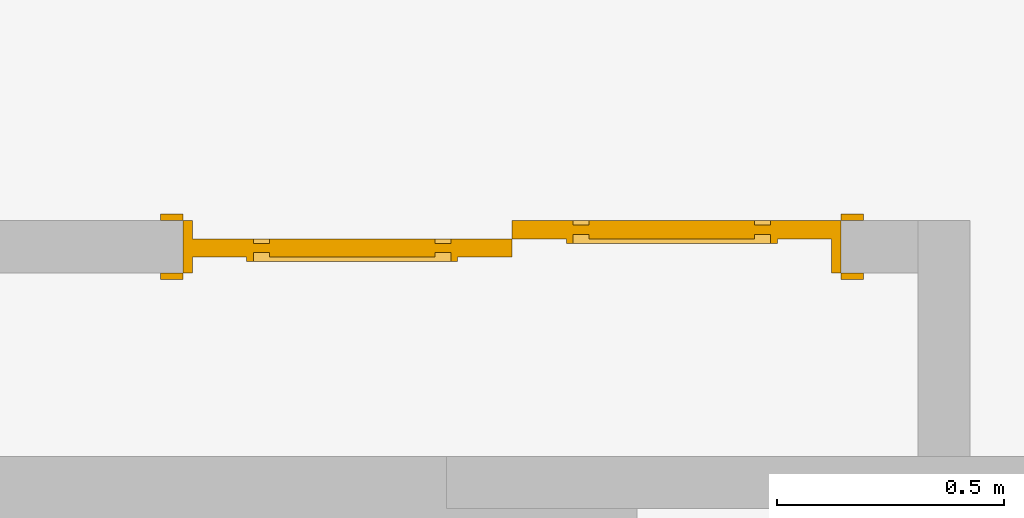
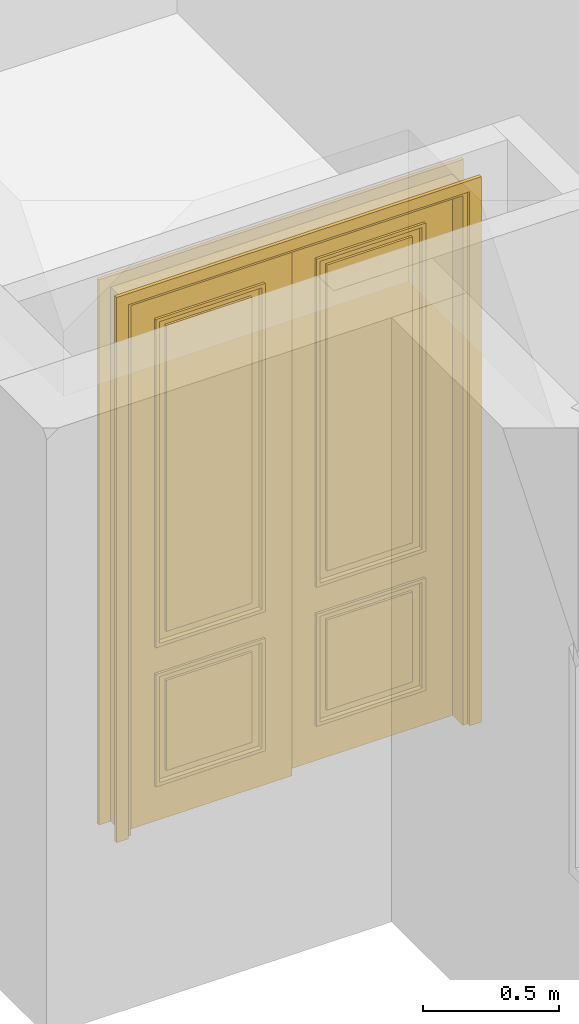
# One storey, part 12 of 24: 1 door.
"""IFC2X3 building model written with IfcOpenShell, lengths in inches."""

from ifc_helpers import new_model, entity, si_unit, converted_unit, derived_unit, money_unit, direction, frame, origin_with_axes, place, context, subcontext, project, spatial, faceted_brep, type_object, element, save


model = new_model("IFC2X3")

# Units and contexts
model_context = context("Model", 3, precision=0.000393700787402, world=origin_with_axes(), true_north=direction((0.0, 1.0)))
body_context = subcontext(model_context, "Body", "Model", "MODEL_VIEW")
ifc_project = project(units=[converted_unit("LENGTHUNIT", "INCH", entity("IfcPositiveLengthMeasure", 0.0254), si_unit("LENGTHUNIT", "METRE"), dimensions=[1, 0, 0, 0, 0, 0, 0]), converted_unit("AREAUNIT", "SQUARE_FOOT", entity("IfcPositiveLengthMeasure", 0.09290304), si_unit("AREAUNIT", "SQUARE_METRE"), dimensions=[2, 0, 0, 0, 0, 0, 0]), si_unit("PLANEANGLEUNIT", "RADIAN"), si_unit("SOLIDANGLEUNIT", "STERADIAN"), money_unit("USD"), converted_unit("TIMEUNIT", "Year", entity("IfcTimeMeasure", 31556926.0), si_unit("TIMEUNIT", "SECOND"), dimensions=[0, 0, 1, 0, 0, 0, 0]), si_unit("MASSUNIT", "GRAM", prefix="KILO"), si_unit("THERMODYNAMICTEMPERATUREUNIT", "DEGREE_CELSIUS"), si_unit("LUMINOUSINTENSITYUNIT", "LUMEN"), si_unit("ENERGYUNIT", "JOULE", prefix="MEGA"), derived_unit("THERMALCONDUCTANCEUNIT", [(si_unit("POWERUNIT", "WATT"), 1), (si_unit("LENGTHUNIT", "METRE"), -1), (si_unit("THERMODYNAMICTEMPERATUREUNIT", "KELVIN"), -1)]), derived_unit("SPECIFICHEATCAPACITYUNIT", [(si_unit("ENERGYUNIT", "JOULE"), 1), (si_unit("MASSUNIT", "GRAM", prefix="KILO"), -1), (si_unit("THERMODYNAMICTEMPERATUREUNIT", "KELVIN"), -1)]), derived_unit("MASSDENSITYUNIT", [(si_unit("MASSUNIT", "GRAM", prefix="KILO"), 1), (si_unit("VOLUMEUNIT", "CUBIC_METRE"), -1)])], contexts=[model_context])

# Site, building, storey
site_placement = place(None, origin_with_axes())
site = spatial("IfcSite", under=ifc_project, at=site_placement, Name="Site", CompositionType="ELEMENT")
building_placement = place(site_placement, origin_with_axes())
building = spatial("IfcBuilding", under=site, at=building_placement, Name="Building", CompositionType="ELEMENT")
storey_placement = place(building_placement, origin_with_axes())
storey = spatial("IfcBuildingStorey", under=building, at=storey_placement, Name="First Floor", CompositionType="ELEMENT", Elevation=0.0)

# Door
door_style = type_object("IfcDoorStyle", Name="Sliding Door 25", ConstructionType="NOTDEFINED", OperationType="USERDEFINED", ParameterTakesPrecedence=False, Sizeable=False)
door_placement = place(storey_placement, frame((251.056966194, 420.396795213, 0.0), z_axis=(0.0, 0.0, 1.0), x_axis=(1.0, 0.0, 0.0)))
element("IfcDoor", 1, at=door_placement, inside=storey, type_object=door_style, Name="D-29", OverallHeight=94.4882, OverallWidth=57.0866, context=body_context, shape_type="Brep", body=[
    faceted_brep([(-1.96850393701, -5.11811023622, 0.0), (-1.96850393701, -4.52755905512, 0.0), (0.0, -4.52755905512, 0.0), (0.0, -5.11811023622, 0.0), (-1.96850393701, -5.11811023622, 96.4566929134), (-1.96850393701, -4.52755905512, 96.4566929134), (0.0, -4.52755905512, 94.4881889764), (0.0, -5.11811023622, 94.4881889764)], [[[0, 1, 2, 3]], [[4, 5, 1, 0]], [[1, 5, 6, 2]], [[3, 2, 6, 7]], [[0, 3, 7, 4]], [[7, 6, 5, 4]]]),
    faceted_brep([(59.0551181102, -5.11811023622, 96.4566929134), (59.0551181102, -4.52755905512, 96.4566929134), (57.0866141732, -4.52755905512, 94.4881889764), (57.0866141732, -5.11811023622, 94.4881889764), (59.0551181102, -5.11811023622, 0.0), (59.0551181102, -4.52755905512, 0.0), (57.0866141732, -4.52755905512, 0.0), (57.0866141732, -5.11811023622, 0.0)], [[[0, 1, 2, 3]], [[4, 5, 1, 0]], [[1, 5, 6, 2]], [[3, 2, 6, 7]], [[0, 3, 7, 4]], [[7, 6, 5, 4]]]),
    faceted_brep([(-1.96850393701, -5.11811023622, 96.4566929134), (-1.96850393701, -4.52755905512, 96.4566929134), (0.0, -4.52755905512, 94.4881889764), (0.0, -5.11811023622, 94.4881889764), (59.0551181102, -5.11811023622, 96.4566929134), (59.0551181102, -4.52755905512, 96.4566929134), (57.0866141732, -4.52755905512, 94.4881889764), (57.0866141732, -5.11811023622, 94.4881889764)], [[[0, 1, 2, 3]], [[4, 5, 1, 0]], [[1, 5, 6, 2]], [[3, 2, 6, 7]], [[0, 3, 7, 4]], [[7, 6, 5, 4]]]),
    faceted_brep([(-1.96850393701, 0.590551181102, 0.0), (0.0, 0.590551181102, 0.0), (0.0, 0.0, 0.0), (-1.96850393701, 0.0, 0.0), (-1.96850393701, 0.590551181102, 96.4566929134), (0.0, 0.590551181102, 94.4881889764), (0.0, 0.0, 94.4881889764), (-1.96850393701, 0.0, 96.4566929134)], [[[0, 1, 2, 3]], [[0, 4, 5, 1]], [[1, 5, 6, 2]], [[3, 2, 6, 7]], [[4, 0, 3, 7]], [[5, 4, 7, 6]]]),
    faceted_brep([(59.0551181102, 0.590551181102, 96.4566929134), (57.0866141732, 0.590551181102, 94.4881889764), (57.0866141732, 0.0, 94.4881889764), (59.0551181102, 0.0, 96.4566929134), (59.0551181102, 0.590551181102, 0.0), (57.0866141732, 0.590551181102, 0.0), (57.0866141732, 0.0, 0.0), (59.0551181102, 0.0, 0.0)], [[[0, 1, 2, 3]], [[0, 4, 5, 1]], [[1, 5, 6, 2]], [[3, 2, 6, 7]], [[4, 0, 3, 7]], [[5, 4, 7, 6]]]),
    faceted_brep([(-1.96850393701, 0.590551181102, 96.4566929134), (0.0, 0.590551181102, 94.4881889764), (0.0, 0.0, 94.4881889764), (-1.96850393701, 0.0, 96.4566929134), (59.0551181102, 0.590551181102, 96.4566929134), (57.0866141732, 0.590551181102, 94.4881889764), (57.0866141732, 0.0, 94.4881889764), (59.0551181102, 0.0, 96.4566929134)], [[[0, 1, 2, 3]], [[0, 4, 5, 1]], [[1, 5, 6, 2]], [[3, 2, 6, 7]], [[4, 0, 3, 7]], [[5, 4, 7, 6]]]),
    faceted_brep([(0.0, 0.0, 0.0), (0.787401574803, 0.0, 0.0), (0.787401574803, -4.52755905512, 0.0), (0.0, -4.52755905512, 0.0), (0.0, 0.0, 93.7007874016), (0.787401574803, 0.0, 93.7007874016), (0.787401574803, -4.52755905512, 93.7007874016), (0.0, -4.52755905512, 93.7007874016)], [[[0, 1, 2, 3]], [[0, 4, 5, 1]], [[1, 5, 6, 2]], [[3, 2, 6, 7]], [[4, 0, 3, 7]], [[5, 4, 7, 6]]]),
    faceted_brep([(57.0866141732, 0.0, 0.0), (57.0866141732, 0.0, 93.7007874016), (57.0866141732, -4.52755905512, 93.7007874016), (57.0866141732, -4.52755905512, 0.0), (56.2992125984, 0.0, 0.0), (56.2992125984, 0.0, 93.7007874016), (56.2992125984, -4.52755905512, 93.7007874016), (56.2992125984, -4.52755905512, 0.0)], [[[0, 1, 2, 3]], [[0, 4, 5, 1]], [[1, 5, 6, 2]], [[3, 2, 6, 7]], [[4, 0, 3, 7]], [[5, 4, 7, 6]]]),
    faceted_brep([(0.0, 0.0, 94.4881889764), (0.0, 0.0, 93.7007874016), (0.0, -4.52755905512, 93.7007874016), (0.0, -4.52755905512, 94.4881889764), (57.0866141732, 0.0, 94.4881889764), (57.0866141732, 0.0, 93.7007874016), (56.2992125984, 0.0, 93.7007874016), (0.787401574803, 0.0, 93.7007874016), (0.787401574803, -4.52755905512, 93.7007874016), (56.2992125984, -4.52755905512, 93.7007874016), (57.0866141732, -4.52755905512, 93.7007874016), (57.0866141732, -4.52755905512, 94.4881889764)], [[[0, 1, 2, 3]], [[0, 4, 5, 6, 7, 1]], [[1, 7, 8, 2]], [[3, 2, 8, 9, 10, 11]], [[4, 0, 3, 11]], [[5, 4, 11, 10]], [[6, 5, 10, 9]], [[7, 6, 9, 8]]]),
    faceted_brep([(56.2992125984, 0.0, 0.0), (56.2992125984, -1.57480314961, 0.0), (28.5433070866, -1.57480314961, 0.0), (28.5433070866, 0.0, 0.0), (56.2992125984, 0.0, 93.7007874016), (56.2992125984, -1.57480314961, 93.7007874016), (28.5433070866, -1.57480314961, 93.7007874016), (51.5748031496, -1.57480314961, 6.29921259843), (33.2677165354, -1.57480314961, 6.29921259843), (33.2677165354, -1.57480314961, 26.1811023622), (51.5748031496, -1.57480314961, 26.1811023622), (51.5748031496, -1.57480314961, 30.905511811), (33.2677165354, -1.57480314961, 30.905511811), (33.2677165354, -1.57480314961, 88.9763779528), (51.5748031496, -1.57480314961, 88.9763779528), (28.5433070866, 0.0, 93.7007874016), (51.5748031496, 0.0, 6.29921259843), (51.5748031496, 0.0, 26.1811023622), (33.2677165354, 0.0, 26.1811023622), (33.2677165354, 0.0, 6.29921259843), (51.5748031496, 0.0, 30.905511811), (51.5748031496, 0.0, 88.9763779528), (33.2677165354, 0.0, 88.9763779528), (33.2677165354, 0.0, 30.905511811)], [[[0, 1, 2, 3]], [[4, 5, 1, 0]], [[1, 5, 6, 2], [7, 8, 9, 10], [11, 12, 13, 14]], [[3, 2, 6, 15]], [[0, 3, 15, 4], [16, 17, 18, 19], [20, 21, 22, 23]], [[15, 6, 5, 4]], [[19, 8, 7, 16]], [[18, 9, 8, 19]], [[17, 10, 9, 18]], [[16, 7, 10, 17]], [[23, 12, 11, 20]], [[22, 13, 12, 23]], [[21, 14, 13, 22]], [[20, 11, 14, 21]]]),
    faceted_brep([(49.6062992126, 0.0, 8.26771653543), (49.6062992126, -1.57480314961, 8.26771653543), (35.2362204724, -1.57480314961, 8.26771653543), (35.2362204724, 0.0, 8.26771653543), (49.6062992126, 0.0, 24.2125984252), (49.6062992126, -1.57480314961, 24.2125984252), (35.2362204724, -1.57480314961, 24.2125984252), (35.2362204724, 0.0, 24.2125984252)], [[[0, 1, 2, 3]], [[4, 5, 1, 0]], [[1, 5, 6, 2]], [[3, 2, 6, 7]], [[0, 3, 7, 4]], [[7, 6, 5, 4]]]),
    faceted_brep([(49.6062992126, 0.0, 32.874015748), (49.6062992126, -1.57480314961, 32.874015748), (35.2362204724, -1.57480314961, 32.874015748), (35.2362204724, 0.0, 32.874015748), (49.6062992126, 0.0, 87.0078740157), (49.6062992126, -1.57480314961, 87.0078740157), (35.2362204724, -1.57480314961, 87.0078740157), (35.2362204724, 0.0, 87.0078740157)], [[[0, 1, 2, 3]], [[4, 5, 1, 0]], [[1, 5, 6, 2]], [[3, 2, 6, 7]], [[0, 3, 7, 4]], [[7, 6, 5, 4]]]),
    faceted_brep([(51.5748031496, 0.0, 6.29921259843), (51.5748031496, -1.96850393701, 6.29921259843), (33.2677165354, -1.96850393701, 6.29921259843), (33.2677165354, 0.0, 6.29921259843), (51.5748031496, 0.0, 26.1811023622), (51.5748031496, -1.96850393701, 26.1811023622), (33.2677165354, -1.96850393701, 26.1811023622), (50.9842519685, -1.96850393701, 6.88976377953), (33.8582677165, -1.96850393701, 6.88976377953), (33.8582677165, -1.96850393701, 25.5905511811), (50.9842519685, -1.96850393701, 25.5905511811), (33.2677165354, 0.0, 26.1811023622), (50.9842519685, 0.0, 6.88976377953), (50.9842519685, 0.0, 25.5905511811), (33.8582677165, 0.0, 25.5905511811), (33.8582677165, 0.0, 6.88976377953)], [[[0, 1, 2, 3]], [[4, 5, 1, 0]], [[1, 5, 6, 2], [7, 8, 9, 10]], [[3, 2, 6, 11]], [[0, 3, 11, 4], [12, 13, 14, 15]], [[11, 6, 5, 4]], [[15, 8, 7, 12]], [[14, 9, 8, 15]], [[13, 10, 9, 14]], [[12, 7, 10, 13]]]),
    faceted_brep([(51.5748031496, 0.0, 30.905511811), (51.5748031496, -1.96850393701, 30.905511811), (33.2677165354, -1.96850393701, 30.905511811), (33.2677165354, 0.0, 30.905511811), (51.5748031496, 0.0, 88.9763779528), (51.5748031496, -1.96850393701, 88.9763779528), (33.2677165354, -1.96850393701, 88.9763779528), (50.9842519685, -1.96850393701, 31.4960629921), (33.8582677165, -1.96850393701, 31.4960629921), (33.8582677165, -1.96850393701, 88.3858267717), (50.9842519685, -1.96850393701, 88.3858267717), (33.2677165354, 0.0, 88.9763779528), (50.9842519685, 0.0, 31.4960629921), (50.9842519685, 0.0, 88.3858267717), (33.8582677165, 0.0, 88.3858267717), (33.8582677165, 0.0, 31.4960629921)], [[[0, 1, 2, 3]], [[4, 5, 1, 0]], [[1, 5, 6, 2], [7, 8, 9, 10]], [[3, 2, 6, 11]], [[0, 3, 11, 4], [12, 13, 14, 15]], [[11, 6, 5, 4]], [[15, 8, 7, 12]], [[14, 9, 8, 15]], [[13, 10, 9, 14]], [[12, 7, 10, 13]]]),
    faceted_brep([(50.9842519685, -0.393700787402, 6.88976377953), (50.9842519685, -1.1811023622, 6.88976377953), (33.8582677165, -1.1811023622, 6.88976377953), (33.8582677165, -0.393700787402, 6.88976377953), (50.9842519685, -0.393700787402, 25.5905511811), (50.9842519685, -1.1811023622, 25.5905511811), (33.8582677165, -1.1811023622, 25.5905511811), (49.6062992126, -1.1811023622, 8.26771653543), (35.2362204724, -1.1811023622, 8.26771653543), (35.2362204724, -1.1811023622, 24.2125984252), (49.6062992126, -1.1811023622, 24.2125984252), (33.8582677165, -0.393700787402, 25.5905511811), (49.6062992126, -0.393700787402, 8.26771653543), (49.6062992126, -0.393700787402, 24.2125984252), (35.2362204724, -0.393700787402, 24.2125984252), (35.2362204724, -0.393700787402, 8.26771653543)], [[[0, 1, 2, 3]], [[4, 5, 1, 0]], [[1, 5, 6, 2], [7, 8, 9, 10]], [[3, 2, 6, 11]], [[0, 3, 11, 4], [12, 13, 14, 15]], [[11, 6, 5, 4]], [[15, 8, 7, 12]], [[14, 9, 8, 15]], [[13, 10, 9, 14]], [[12, 7, 10, 13]]]),
    faceted_brep([(50.9842519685, -0.393700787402, 31.4960629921), (50.9842519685, -1.1811023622, 31.4960629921), (33.8582677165, -1.1811023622, 31.4960629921), (33.8582677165, -0.393700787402, 31.4960629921), (50.9842519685, -0.393700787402, 88.3858267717), (50.9842519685, -1.1811023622, 88.3858267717), (33.8582677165, -1.1811023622, 88.3858267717), (49.6062992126, -1.1811023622, 32.874015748), (35.2362204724, -1.1811023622, 32.874015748), (35.2362204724, -1.1811023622, 87.0078740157), (49.6062992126, -1.1811023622, 87.0078740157), (33.8582677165, -0.393700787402, 88.3858267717), (49.6062992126, -0.393700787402, 32.874015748), (49.6062992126, -0.393700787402, 87.0078740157), (35.2362204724, -0.393700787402, 87.0078740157), (35.2362204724, -0.393700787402, 32.874015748)], [[[0, 1, 2, 3]], [[4, 5, 1, 0]], [[1, 5, 6, 2], [7, 8, 9, 10]], [[3, 2, 6, 11]], [[0, 3, 11, 4], [12, 13, 14, 15]], [[11, 6, 5, 4]], [[15, 8, 7, 12]], [[14, 9, 8, 15]], [[13, 10, 9, 14]], [[12, 7, 10, 13]]]),
    faceted_brep([(28.5433070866, -1.57480314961, 0.0), (28.5433070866, -3.14960629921, 0.0), (0.787401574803, -3.14960629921, 0.0), (0.787401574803, -1.57480314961, 0.0), (28.5433070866, -1.57480314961, 93.7007874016), (28.5433070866, -3.14960629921, 93.7007874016), (0.787401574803, -3.14960629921, 93.7007874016), (23.8188976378, -3.14960629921, 6.29921259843), (5.51181102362, -3.14960629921, 6.29921259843), (5.51181102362, -3.14960629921, 26.1811023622), (23.8188976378, -3.14960629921, 26.1811023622), (23.8188976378, -3.14960629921, 30.905511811), (5.51181102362, -3.14960629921, 30.905511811), (5.51181102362, -3.14960629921, 88.9763779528), (23.8188976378, -3.14960629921, 88.9763779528), (0.787401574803, -1.57480314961, 93.7007874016), (23.8188976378, -1.57480314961, 6.29921259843), (23.8188976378, -1.57480314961, 26.1811023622), (5.51181102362, -1.57480314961, 26.1811023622), (5.51181102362, -1.57480314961, 6.29921259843), (23.8188976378, -1.57480314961, 30.905511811), (23.8188976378, -1.57480314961, 88.9763779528), (5.51181102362, -1.57480314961, 88.9763779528), (5.51181102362, -1.57480314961, 30.905511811)], [[[0, 1, 2, 3]], [[4, 5, 1, 0]], [[1, 5, 6, 2], [7, 8, 9, 10], [11, 12, 13, 14]], [[3, 2, 6, 15]], [[0, 3, 15, 4], [16, 17, 18, 19], [20, 21, 22, 23]], [[15, 6, 5, 4]], [[19, 8, 7, 16]], [[18, 9, 8, 19]], [[17, 10, 9, 18]], [[16, 7, 10, 17]], [[23, 12, 11, 20]], [[22, 13, 12, 23]], [[21, 14, 13, 22]], [[20, 11, 14, 21]]]),
    faceted_brep([(21.8503937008, -1.57480314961, 8.26771653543), (21.8503937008, -3.14960629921, 8.26771653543), (7.48031496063, -3.14960629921, 8.26771653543), (7.48031496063, -1.57480314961, 8.26771653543), (21.8503937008, -1.57480314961, 24.2125984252), (21.8503937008, -3.14960629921, 24.2125984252), (7.48031496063, -3.14960629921, 24.2125984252), (7.48031496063, -1.57480314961, 24.2125984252)], [[[0, 1, 2, 3]], [[4, 5, 1, 0]], [[1, 5, 6, 2]], [[3, 2, 6, 7]], [[0, 3, 7, 4]], [[7, 6, 5, 4]]]),
    faceted_brep([(21.8503937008, -1.57480314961, 32.874015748), (21.8503937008, -3.14960629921, 32.874015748), (7.48031496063, -3.14960629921, 32.874015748), (7.48031496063, -1.57480314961, 32.874015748), (21.8503937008, -1.57480314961, 87.0078740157), (21.8503937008, -3.14960629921, 87.0078740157), (7.48031496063, -3.14960629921, 87.0078740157), (7.48031496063, -1.57480314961, 87.0078740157)], [[[0, 1, 2, 3]], [[4, 5, 1, 0]], [[1, 5, 6, 2]], [[3, 2, 6, 7]], [[0, 3, 7, 4]], [[7, 6, 5, 4]]]),
    faceted_brep([(23.8188976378, -1.57480314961, 6.29921259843), (23.8188976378, -3.54330708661, 6.29921259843), (5.51181102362, -3.54330708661, 6.29921259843), (5.51181102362, -1.57480314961, 6.29921259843), (23.8188976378, -1.57480314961, 26.1811023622), (23.8188976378, -3.54330708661, 26.1811023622), (5.51181102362, -3.54330708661, 26.1811023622), (23.2283464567, -3.54330708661, 6.88976377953), (6.10236220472, -3.54330708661, 6.88976377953), (6.10236220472, -3.54330708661, 25.5905511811), (23.2283464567, -3.54330708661, 25.5905511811), (5.51181102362, -1.57480314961, 26.1811023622), (23.2283464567, -1.57480314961, 6.88976377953), (23.2283464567, -1.57480314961, 25.5905511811), (6.10236220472, -1.57480314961, 25.5905511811), (6.10236220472, -1.57480314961, 6.88976377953)], [[[0, 1, 2, 3]], [[4, 5, 1, 0]], [[1, 5, 6, 2], [7, 8, 9, 10]], [[3, 2, 6, 11]], [[0, 3, 11, 4], [12, 13, 14, 15]], [[11, 6, 5, 4]], [[15, 8, 7, 12]], [[14, 9, 8, 15]], [[13, 10, 9, 14]], [[12, 7, 10, 13]]]),
    faceted_brep([(23.8188976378, -1.57480314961, 30.905511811), (23.8188976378, -3.54330708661, 30.905511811), (5.51181102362, -3.54330708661, 30.905511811), (5.51181102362, -1.57480314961, 30.905511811), (23.8188976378, -1.57480314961, 88.9763779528), (23.8188976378, -3.54330708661, 88.9763779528), (5.51181102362, -3.54330708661, 88.9763779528), (23.2283464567, -3.54330708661, 31.4960629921), (6.10236220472, -3.54330708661, 31.4960629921), (6.10236220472, -3.54330708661, 88.3858267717), (23.2283464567, -3.54330708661, 88.3858267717), (5.51181102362, -1.57480314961, 88.9763779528), (23.2283464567, -1.57480314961, 31.4960629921), (23.2283464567, -1.57480314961, 88.3858267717), (6.10236220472, -1.57480314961, 88.3858267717), (6.10236220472, -1.57480314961, 31.4960629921)], [[[0, 1, 2, 3]], [[4, 5, 1, 0]], [[1, 5, 6, 2], [7, 8, 9, 10]], [[3, 2, 6, 11]], [[0, 3, 11, 4], [12, 13, 14, 15]], [[11, 6, 5, 4]], [[15, 8, 7, 12]], [[14, 9, 8, 15]], [[13, 10, 9, 14]], [[12, 7, 10, 13]]]),
    faceted_brep([(23.2283464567, -1.96850393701, 6.88976377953), (23.2283464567, -2.75590551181, 6.88976377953), (6.10236220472, -2.75590551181, 6.88976377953), (6.10236220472, -1.96850393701, 6.88976377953), (23.2283464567, -1.96850393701, 25.5905511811), (23.2283464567, -2.75590551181, 25.5905511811), (6.10236220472, -2.75590551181, 25.5905511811), (21.8503937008, -2.75590551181, 8.26771653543), (7.48031496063, -2.75590551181, 8.26771653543), (7.48031496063, -2.75590551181, 24.2125984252), (21.8503937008, -2.75590551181, 24.2125984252), (6.10236220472, -1.96850393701, 25.5905511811), (21.8503937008, -1.96850393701, 8.26771653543), (21.8503937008, -1.96850393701, 24.2125984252), (7.48031496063, -1.96850393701, 24.2125984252), (7.48031496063, -1.96850393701, 8.26771653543)], [[[0, 1, 2, 3]], [[4, 5, 1, 0]], [[1, 5, 6, 2], [7, 8, 9, 10]], [[3, 2, 6, 11]], [[0, 3, 11, 4], [12, 13, 14, 15]], [[11, 6, 5, 4]], [[15, 8, 7, 12]], [[14, 9, 8, 15]], [[13, 10, 9, 14]], [[12, 7, 10, 13]]]),
    faceted_brep([(23.2283464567, -1.96850393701, 31.4960629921), (23.2283464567, -2.75590551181, 31.4960629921), (6.10236220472, -2.75590551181, 31.4960629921), (6.10236220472, -1.96850393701, 31.4960629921), (23.2283464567, -1.96850393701, 88.3858267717), (23.2283464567, -2.75590551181, 88.3858267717), (6.10236220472, -2.75590551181, 88.3858267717), (21.8503937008, -2.75590551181, 32.874015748), (7.48031496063, -2.75590551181, 32.874015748), (7.48031496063, -2.75590551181, 87.0078740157), (21.8503937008, -2.75590551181, 87.0078740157), (6.10236220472, -1.96850393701, 88.3858267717), (21.8503937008, -1.96850393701, 32.874015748), (21.8503937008, -1.96850393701, 87.0078740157), (7.48031496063, -1.96850393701, 87.0078740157), (7.48031496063, -1.96850393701, 32.874015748)], [[[0, 1, 2, 3]], [[4, 5, 1, 0]], [[1, 5, 6, 2], [7, 8, 9, 10]], [[3, 2, 6, 11]], [[0, 3, 11, 4], [12, 13, 14, 15]], [[11, 6, 5, 4]], [[15, 8, 7, 12]], [[14, 9, 8, 15]], [[13, 10, 9, 14]], [[12, 7, 10, 13]]]),
])

save(model, "model.ifc")
